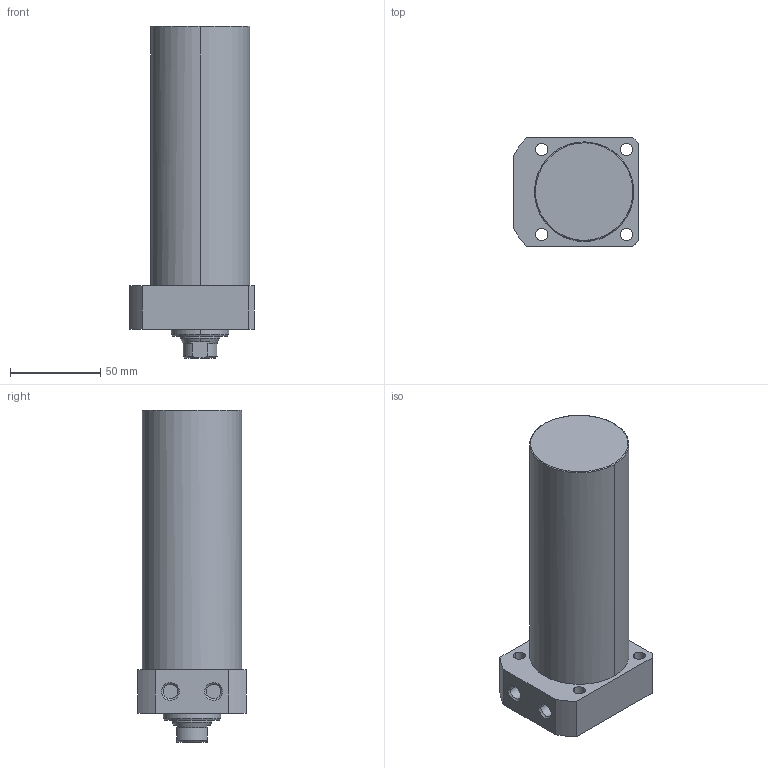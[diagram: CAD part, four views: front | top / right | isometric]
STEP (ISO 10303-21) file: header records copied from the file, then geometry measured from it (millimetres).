
FILE_DESCRIPTION((' '),'2;1');
FILE_NAME( 'TLLR-055CA-115.STEP.stp', '2025-10-24T16:34:43', (' '), ('--- Datakit www.datakit.com---'), ' Datakit CrossCadWare V2024.1 Dec 21 2023', 'Mastercam 2025', ' ');
FILE_SCHEMA(('AUTOMOTIVE_DESIGN { 1 0 10303 214 1 1 1 1 }'));
Length unit declared in the file: millimetre
Products named in the file (1): TLLR-055CA-115
Bounding box: 69 x 60 x 184 mm (x, y, z)
Volume: 439746.9 mm3; surface area: 43168.4 mm2
Topology: 1 solids, 1 shells, 63 faces, 177 edges, 122 vertices
Faces by surface type: cylinder 28, plane 19, cone 14, torus 2
Entity records: 2164 total; most frequent: CARTESIAN_POINT 401, DIRECTION 400, ORIENTED_EDGE 350, EDGE_CURVE 175, AXIS2_PLACEMENT_3D 169, VERTEX_POINT 122, CIRCLE 105, EDGE_LOOP 79
